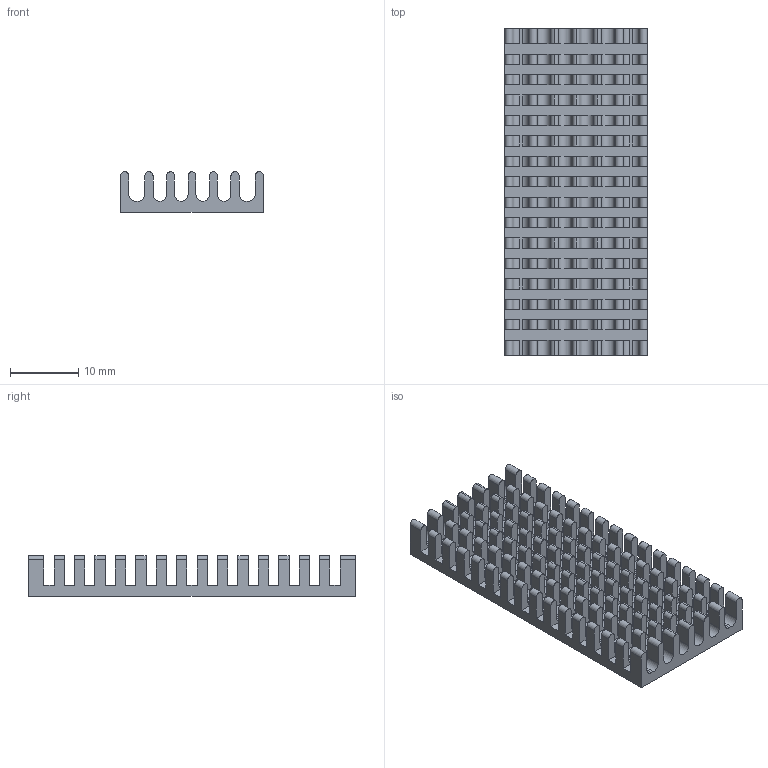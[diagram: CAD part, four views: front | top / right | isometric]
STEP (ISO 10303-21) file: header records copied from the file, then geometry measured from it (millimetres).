
FILE_DESCRIPTION(/* description */ (''),/* implementation_level */ '2;1');
FILE_NAME(/* name */ 'C:\Users\Calliope\Desktop\Heatsink.stp',/* time_stamp */ '2018-05-21T10:26:30+08:00',/* author */ ('Calliope'),/* organization */ (''),/* preprocessor_version */ 'ST-DEVELOPER v15.6',/* originating_system */ 'Autodesk Inventor 2015',/* authorisation */ '');
FILE_SCHEMA (('AUTOMOTIVE_DESIGN { 1 0 10303 214 3 1 1 }'));
Length unit declared in the file: millimetre
Products named in the file (1): heatsink
Bounding box: 20.95 x 48 x 5.95 mm (x, y, z)
Volume: 2562.3 mm3; surface area: 4758 mm2
Topology: 1 solids, 1 shells, 696 faces, 1920 edges, 1240 vertices
Faces by surface type: plane 408, cylinder 288
Entity records: 22244 total; most frequent: DIRECTION 4010, CARTESIAN_POINT 3857, ORIENTED_EDGE 3840, EDGE_CURVE 1920, AXIS2_PLACEMENT_3D 1393, VERTEX_POINT 1240, LINE 1224, VECTOR 1224
